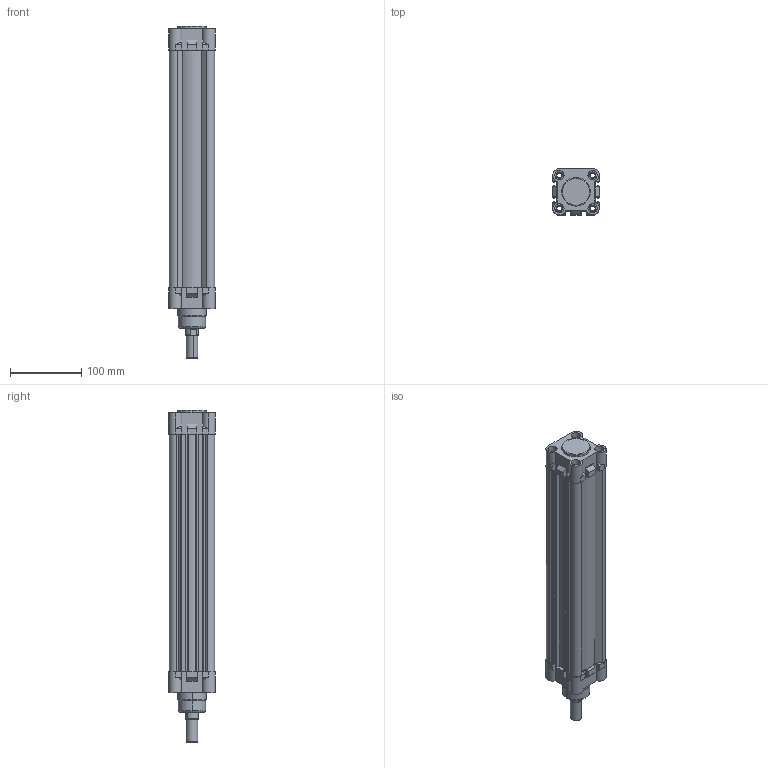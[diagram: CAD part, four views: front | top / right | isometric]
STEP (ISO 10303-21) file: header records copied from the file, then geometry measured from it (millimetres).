
FILE_DESCRIPTION (( 'STEP AP214' ), '1' );
FILE_NAME ('RIC50_300_MY_WEB.STEP', '2020-07-05T17:33:12', ( '' ), ( '' ), 'SwSTEP 2.0', 'SolidWorks 2018', '' );
FILE_SCHEMA (( 'AUTOMOTIVE_DESIGN' ));
Length unit declared in the file: millimetre
Products named in the file (6): 50_ON_KAPAK_WEB; RIC50_300_MY_WEB; 50_BORU; 20_MIL_WEB; 50bogazkecesi; 50_ARKA_KAPAK_WEB
Assembly tree (5 placements, depth 2):
  RIC50_300_MY_WEB
    50_BORU
    50_ARKA_KAPAK_WEB
    50_ON_KAPAK_WEB
    20_MIL_WEB
    50bogazkecesi
Bounding box: 65 x 65 x 465 mm (x, y, z)
Volume: 665690.8 mm3; surface area: 262073 mm2
Topology: 5 solids, 5 shells, 576 faces, 1465 edges, 952 vertices
Faces by surface type: plane 265, cylinder 172, bspline 83, cone 40, torus 16
Entity records: 23952 total; most frequent: CARTESIAN_POINT 8155, ORIENTED_EDGE 2930, DIRECTION 2697, EDGE_CURVE 1465, VERTEX_POINT 952, AXIS2_PLACEMENT_3D 919, LINE 859, VECTOR 859
